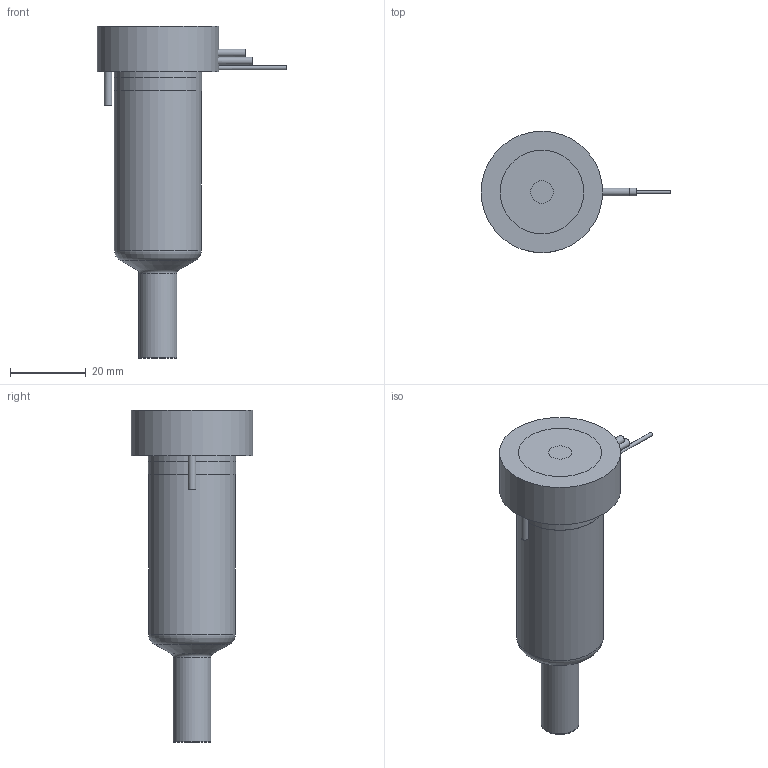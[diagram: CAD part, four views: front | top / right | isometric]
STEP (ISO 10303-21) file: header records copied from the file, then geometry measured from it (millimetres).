
FILE_DESCRIPTION(/* description */ (''),/* implementation_level */ '2;1');
FILE_NAME(/* name */ 'MXYCN13055N3F_200C_a',/* time_stamp */ '2016-02-23T11:37:01+13:00',/* author */ (''),/* organization */ (''),/* preprocessor_version */ 'ST-DEVELOPER v9',/* originating_system */ 'UGS - NX 4.0',/* authorisation */ '');
FILE_SCHEMA (('CONFIG_CONTROL_DESIGN'));
Length unit declared in the file: millimetre
Products named in the file (1): matt48E8ytrt
Bounding box: 49.95 x 32 x 87.42 mm (x, y, z)
Volume: 53388.7 mm3; surface area: 13966.9 mm2
Topology: 2 solids, 2 shells, 71 faces, 156 edges, 102 vertices
Faces by surface type: plane 31, cylinder 26, torus 7, cone 5, bspline 1, sphere 1
Full cylindrical faces by diameter (mm): 1 x2, 1.8 x1, 2 x3, 4 x1, 6 x1, 9.61 x1, 9.995 x2, 12.6 x1, 18.8 x1, 22.9 x1, 23 x2, 32 x1
Entity records: 2121 total; most frequent: CARTESIAN_POINT 614, DIRECTION 314, ORIENTED_EDGE 234, AXIS2_PLACEMENT_3D 141, EDGE_CURVE 117, EDGE_LOOP 114, VERTEX_POINT 91, ADVANCED_FACE 71
